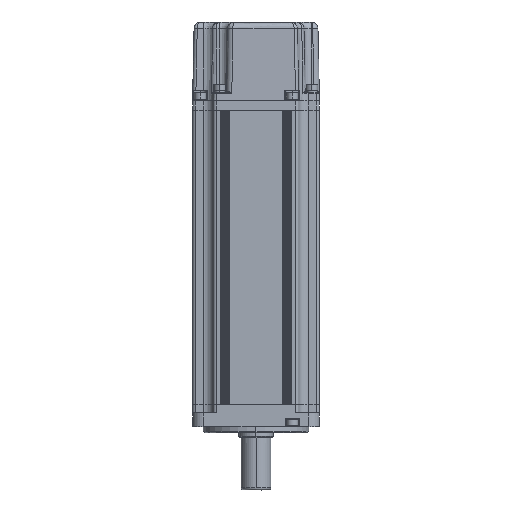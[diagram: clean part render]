
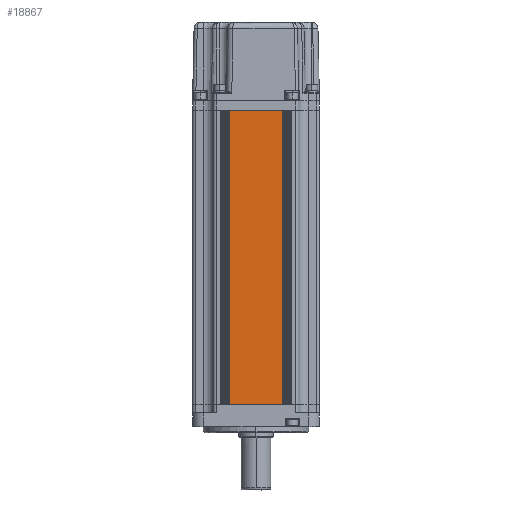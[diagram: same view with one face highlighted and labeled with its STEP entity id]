
A CAD part, left-side view. The second image highlights one B-rep face of the part: STEP entity #18867.
In plain terms, the highlighted planar face has unit normal (-1, 0, 0) as drawn and (1, 0, 0) by its records, which use the part's own axes.
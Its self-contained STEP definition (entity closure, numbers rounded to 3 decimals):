
#12036=DIRECTION('',(0.,1.,0.));
#12037=VECTOR('',#12036,25.);
#12038=CARTESIAN_POINT('',(30.,-12.5,0.));
#12039=LINE('',#12038,#12037);
#13356=DIRECTION('',(0.,1.,0.));
#13357=VECTOR('',#13356,25.);
#13358=CARTESIAN_POINT('',(30.,-12.5,139.));
#13359=LINE('',#13358,#13357);
#14511=DIRECTION('',(0.,0.,1.));
#14512=VECTOR('',#14511,139.);
#14513=CARTESIAN_POINT('',(30.,12.5,0.));
#14514=LINE('',#14513,#14512);
#14515=DIRECTION('',(0.,0.,1.));
#14516=VECTOR('',#14515,139.);
#14517=CARTESIAN_POINT('',(30.,-12.5,0.));
#14518=LINE('',#14517,#14516);
#15634=CARTESIAN_POINT('',(30.,-12.5,0.));
#15636=VERTEX_POINT('',#15634);
#15698=CARTESIAN_POINT('',(30.,-12.5,139.));
#15700=VERTEX_POINT('',#15698);
#15990=CARTESIAN_POINT('',(30.,12.5,0.));
#15991=VERTEX_POINT('',#15990);
#16022=CARTESIAN_POINT('',(30.,12.5,139.));
#16023=VERTEX_POINT('',#16022);
#18854=CARTESIAN_POINT('',(30.,-30.,0.));
#18855=DIRECTION('',(1.,0.,0.));
#18856=DIRECTION('',(0.,1.,0.));
#18857=AXIS2_PLACEMENT_3D('',#18854,#18855,#18856);
#18858=PLANE('',#18857);
#18860=ORIENTED_EDGE('',*,*,#18859,.F.);
#18861=ORIENTED_EDGE('',*,*,#16375,.F.);
#18863=ORIENTED_EDGE('',*,*,#18862,.T.);
#18864=ORIENTED_EDGE('',*,*,#17427,.T.);
#18865=EDGE_LOOP('',(#18860,#18861,#18863,#18864));
#18866=FACE_OUTER_BOUND('',#18865,.F.);
#16375=EDGE_CURVE('',#15636,#15991,#12039,.T.);
#17427=EDGE_CURVE('',#15700,#16023,#13359,.T.);
#18859=EDGE_CURVE('',#15991,#16023,#14514,.T.);
#18862=EDGE_CURVE('',#15636,#15700,#14518,.T.);
#18867=ADVANCED_FACE('',(#18866),#18858,.T.);
